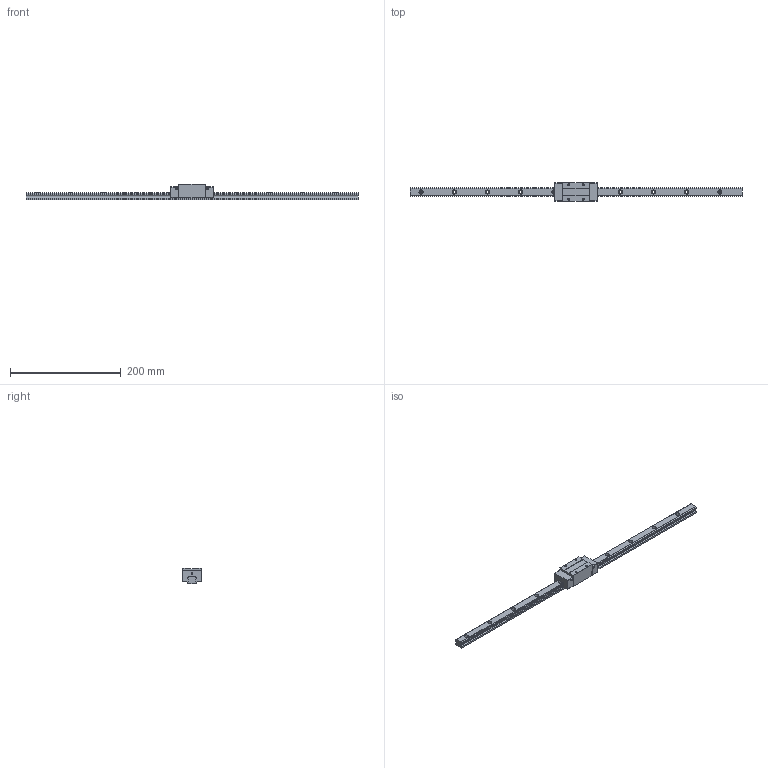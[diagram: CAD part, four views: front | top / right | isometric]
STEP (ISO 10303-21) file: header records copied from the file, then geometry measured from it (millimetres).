
FILE_DESCRIPTION (( 'STEP AP203' ), '1' );
FILE_NAME ('TRH15VL-WW.STEP', '2024-05-23T02:43:55', ( '' ), ( '' ), 'SwSTEP 2.0', 'SolidWorks 2022', '' );
FILE_SCHEMA (( 'CONFIG_CONTROL_DESIGN' ));
Length unit declared in the file: millimetre
Products named in the file (1): TRH15VL-WW
Bounding box: 600 x 34 x 28 mm (x, y, z)
Volume: 150049.3 mm3; surface area: 49363.5 mm2
Topology: 2 solids, 2 shells, 200 faces, 520 edges, 336 vertices
Faces by surface type: cylinder 96, plane 88, cone 16
Entity records: 6223 total; most frequent: DIRECTION 1114, CARTESIAN_POINT 1049, ORIENTED_EDGE 1024, EDGE_CURVE 512, AXIS2_PLACEMENT_3D 401, VERTEX_POINT 336, VECTOR 312, LINE 312
